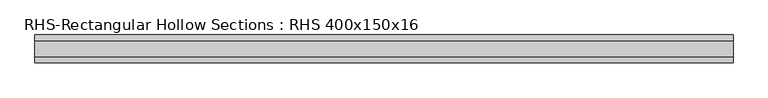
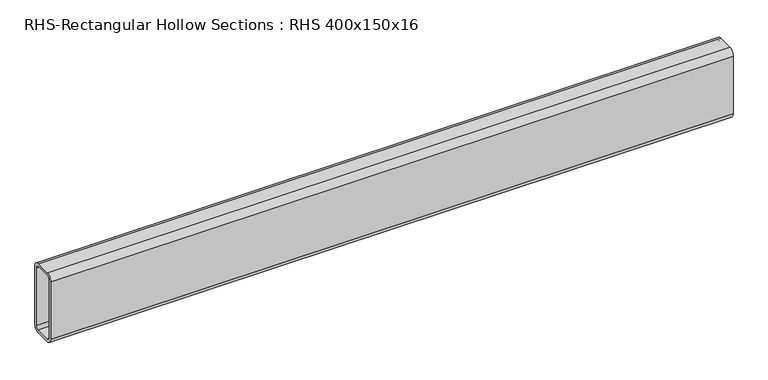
"""IFC4 building model written with IfcOpenShell, lengths in millimetres: beam geometry, RHS-Rectangular Hollow Sections : RHS 400x150x16."""

from ifc_helpers import new_model, si_unit, point, frame, frame_2d, origin, place, context, project, spatial, polyline, circle_curve, trimmed, segment, composite_curve, outline, extrude, source, transform, mapped, element, save


def rhs_rectangular_hollow_sections_rhs_400x150x16_d0cd4388(model_context):
    return source(origin(), model_context, "Body", "SweptSolid", [
        extrude(outline(composite_curve([segment(polyline([(75.0, 168.0), (75.0, -168.0)]), True, "CONTINUOUS"), segment(trimmed(circle_curve(frame_2d((43.0, -168.0)), 32.0), [point((75.0, -168.0))], [point((43.0, -200.0))], False, "CARTESIAN"), True, "CONTINUOUS"), segment(polyline([(43.0, -200.0), (-43.0, -200.0)]), True, "CONTINUOUS"), segment(trimmed(circle_curve(frame_2d((-43.0, -168.0)), 32.0), [point((-43.0, -200.0))], [point((-75.0, -168.0))], False, "CARTESIAN"), True, "CONTINUOUS"), segment(polyline([(-75.0, -168.0), (-75.0, 168.0)]), True, "CONTINUOUS"), segment(trimmed(circle_curve(frame_2d((-43.0, 168.0)), 32.0), [point((-75.0, 168.0))], [point((-43.0, 200.0))], False, "CARTESIAN"), True, "CONTINUOUS"), segment(polyline([(-43.0, 200.0), (43.0, 200.0)]), True, "CONTINUOUS"), segment(trimmed(circle_curve(frame_2d((43.0, 168.0)), 32.0), [point((43.0, 200.0))], [point((75.0, 168.0))], False, "CARTESIAN"), True, "CONTINUOUS")], self_intersect=False), holes=[composite_curve([segment(trimmed(circle_curve(frame_2d((-43.0, 168.0)), 16.0), [point((-43.0, 184.0))], [point((-59.0, 168.0))], True, "CARTESIAN"), True, "CONTINUOUS"), segment(polyline([(-59.0, 168.0), (-59.0, -168.0)]), True, "CONTINUOUS"), segment(trimmed(circle_curve(frame_2d((-43.0, -168.0)), 16.0), [point((-59.0, -168.0))], [point((-43.0, -184.0))], True, "CARTESIAN"), True, "CONTINUOUS"), segment(polyline([(-43.0, -184.0), (43.0, -184.0)]), True, "CONTINUOUS"), segment(trimmed(circle_curve(frame_2d((43.0, -168.0)), 16.0), [point((43.0, -184.0))], [point((59.0, -168.0))], True, "CARTESIAN"), True, "CONTINUOUS"), segment(polyline([(59.0, -168.0), (59.0, 168.0)]), True, "CONTINUOUS"), segment(trimmed(circle_curve(frame_2d((43.0, 168.0)), 16.0), [point((59.0, 168.0))], [point((43.0, 184.0))], True, "CARTESIAN"), True, "CONTINUOUS"), segment(polyline([(43.0, 184.0), (-43.0, 184.0)]), True, "CONTINUOUS")], self_intersect=False)]), frame((-1892.0, 0.0, 0.0), z_axis=(1.0, 0.0, 0.0), x_axis=(0.0, 1.0, 0.0)), (0.0, 0.0, 1.0), 3750.0),
    ])


if __name__ == "__main__":
    model = new_model("IFC4")
    model_context = context("Model", 3, world=origin())
    ifc_project = project(units=[si_unit("LENGTHUNIT", "METRE", prefix="MILLI")], contexts=[model_context])
    site = spatial("IfcSite", under=ifc_project)
    building = spatial("IfcBuilding", under=site)
    placement = place(None, origin())
    rhs_rectangular_hollow_sections_rhs_400x150x16_shape = rhs_rectangular_hollow_sections_rhs_400x150x16_d0cd4388(model_context)
    element("IfcBeam", 1, ObjectType="RHS-Rectangular Hollow Sections : RHS 400x150x16", at=placement, inside=building, context=model_context, shape_type="MappedRepresentation", body=[
        mapped(rhs_rectangular_hollow_sections_rhs_400x150x16_shape, transform((0.0, 0.0, 0.0), x_axis=(1.0, 0.0, 0.0), y_axis=(0.0, 1.0, 0.0), z_axis=(0.0, 0.0, 1.0))),
    ])
    save(model, "model.ifc")
